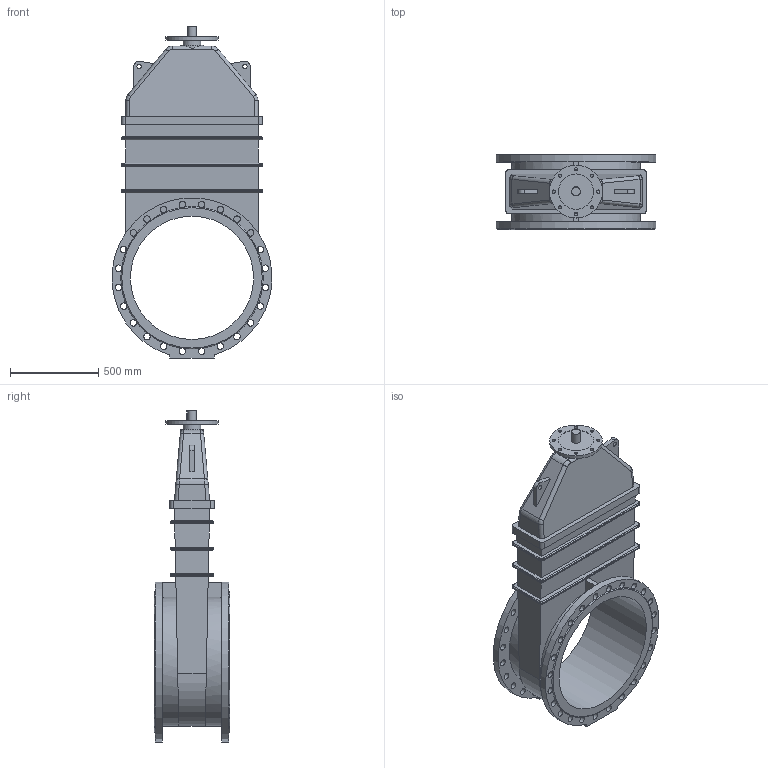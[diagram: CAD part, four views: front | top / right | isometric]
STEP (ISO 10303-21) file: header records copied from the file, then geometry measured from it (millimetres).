
FILE_DESCRIPTION(('STEP AP203'), '1');
FILE_NAME('Çàäâèæêà 47GVA DN700 PN10_PN16_F25 áåç èñïîëíèò. ìåõ.', '', ('UNSPECIFIED'), ('UNSPECIFIED'), 'ASCON STEP Converter 1.6', 'ASCON Math Kernel', '');
FILE_SCHEMA(('CONFIG_CONTROL_DESIGN'));
Length unit declared in the file: millimetre
Bounding box: 907.25 x 430 x 1885 mm (x, y, z)
Volume: 172822884.8 mm3; surface area: 5501911.6 mm2
Topology: 1 solids, 1 shells, 262 faces, 797 edges, 509 vertices
Faces by surface type: cylinder 135, plane 93, bspline 32, cone 2
Full cylindrical faces by diameter (mm): 18 x8, 25 x2, 37 x48, 50 x1, 100 x1, 130 x1, 200 x1, 300 x1, 700 x1
Entity records: 16647 total; most frequent: CARTESIAN_POINT 7592, ORIENTED_EDGE 1452, DIRECTION 1388, EDGE_CURVE 726, AXIS2_PLACEMENT_3D 559, VERTEX_POINT 506, EDGE_LOOP 420, FACE_BOUND 339
